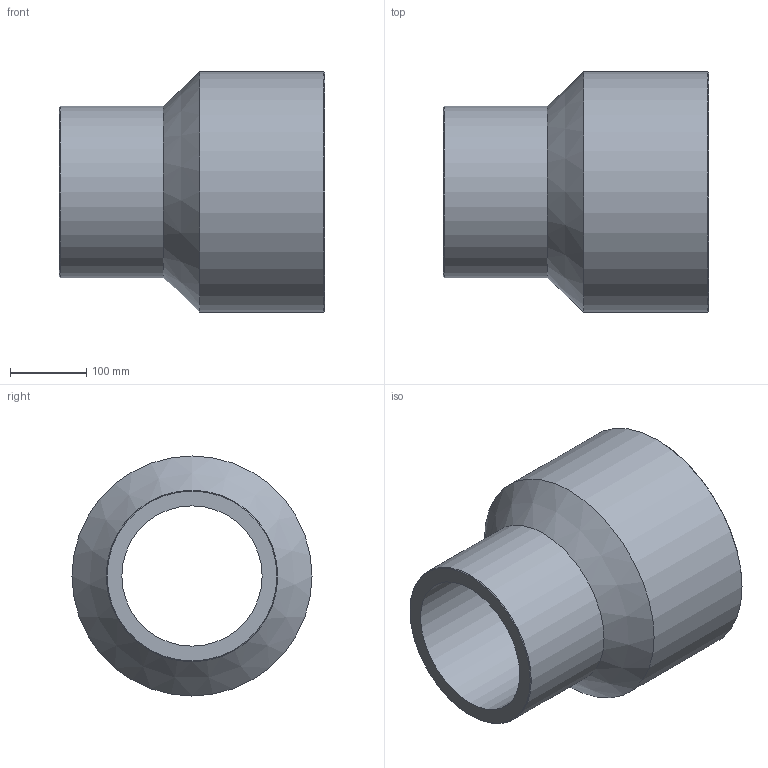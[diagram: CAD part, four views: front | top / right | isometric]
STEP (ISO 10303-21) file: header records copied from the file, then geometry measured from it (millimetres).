
FILE_DESCRIPTION(/* description */ ('Unknown'),/* implementation_level */ '2;1');
FILE_NAME(/* name */ 'RP315225C',/* time_stamp */ '2021-09-17T15:29:26+02:00',/* author */ ('Unknown'),/* organization */ ('Unknown'),/* preprocessor_version */ 'ST-DEVELOPER v16.7',/* originating_system */ 'Solid Edge',/* authorisation */ 'Unknown');
FILE_SCHEMA (('AUTOMOTIVE_DESIGN {1 0 10303 214 3 1 1}'));
Length unit declared in the file: millimetre
Products named in the file (1): RP315225C
Bounding box: 348 x 315 x 315 mm (x, y, z)
Volume: 7804575.1 mm3; surface area: 599089.6 mm2
Topology: 1 solids, 1 shells, 10 faces, 19 edges, 11 vertices
Faces by surface type: cylinder 4, cone 4, plane 2
Full cylindrical faces by diameter (mm): 184 x1, 225 x1, 257.8 x1, 315 x1
Entity records: 238 total; most frequent: DIRECTION 42, CARTESIAN_POINT 31, AXIS2_PLACEMENT_3D 21, ORIENTED_EDGE 20, EDGE_LOOP 20, FACE_BOUND 20, EDGE_CURVE 10, VERTEX_POINT 10
